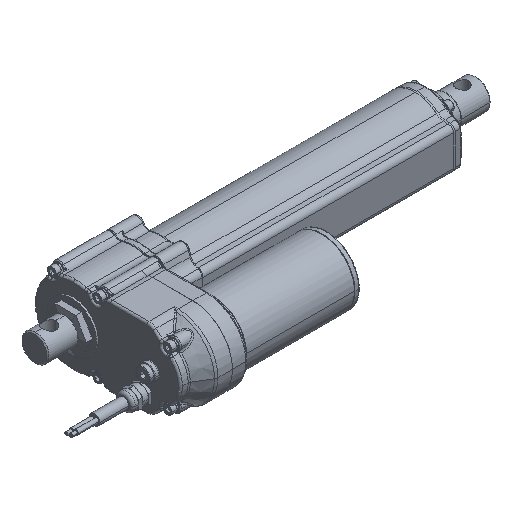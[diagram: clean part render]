
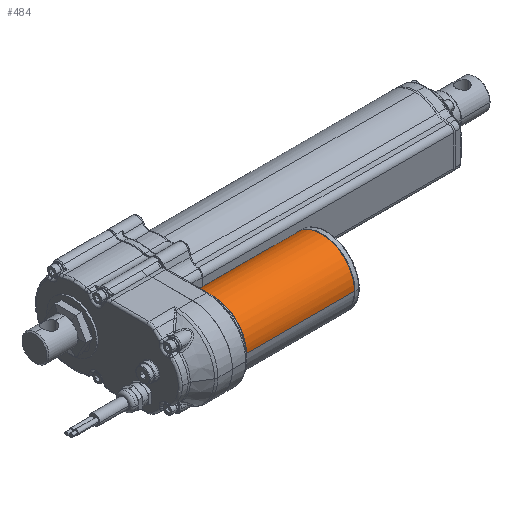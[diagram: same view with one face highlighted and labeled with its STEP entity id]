
A CAD part, isometric view. The second image highlights one B-rep face of the part: STEP entity #484.
In plain terms, the highlighted cylindrical face has radius 32 mm (diameter 64 mm), a partial arc.
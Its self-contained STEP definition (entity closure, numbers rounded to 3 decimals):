
#484=ADVANCED_FACE('',(#1852),#1853,.T.);
#1852=FACE_OUTER_BOUND('',#5107,.T.);
#1853=CYLINDRICAL_SURFACE('',#5108,32.0);
#5107=EDGE_LOOP('',(#11071,#11072,#11073,#11074));
#5108=AXIS2_PLACEMENT_3D('',#11075,#11076,#11077);
#11071=ORIENTED_EDGE('',*,*,#16465,.T.);
#11072=ORIENTED_EDGE('',*,*,#16466,.T.);
#11073=ORIENTED_EDGE('',*,*,#16467,.T.);
#11074=ORIENTED_EDGE('',*,*,#16468,.F.);
#11075=CARTESIAN_POINT('',(56.001,-74.999,0.004));
#11076=DIRECTION('',(-1.0,0.,0.));
#11077=DIRECTION('',(0.0,1.0,0.));
#16465=EDGE_CURVE('',#19683,#19684,#19685,.T.);
#16466=EDGE_CURVE('',#19684,#19686,#19687,.T.);
#16467=EDGE_CURVE('',#19686,#19688,#19689,.T.);
#16468=EDGE_CURVE('',#19683,#19688,#19690,.T.);
#19683=VERTEX_POINT('',#28436);
#19684=VERTEX_POINT('',#28437);
#19685=B_SPLINE_CURVE_WITH_KNOTS('',3,(#28438,#28439,#28440,#28441,#28442,#28443,#28444,#28445,#28446,#28447,#28448,#28449,#28450,#28451,#28452,#28453,#28454,#28455,#28456,#28457,#28458,#28459,#28460,#28461,#28462,#28463,#28464,#28465,#28466,#28467,#28468,#28469,#28470,#28471),.UNSPECIFIED.,.F.,.F.,(4,2,2,2,2,2,2,2,2,2,2,2,2,2,2,2,4),(0.0,0.063,0.125,0.188,0.25,0.313,0.375,0.438,0.5,0.563,0.625,0.688,0.75,0.813,0.875,0.938,1.0),.UNSPECIFIED.);
#19686=VERTEX_POINT('',#28472);
#19687=LINE('',#28473,#28474);
#19688=VERTEX_POINT('',#28475);
#19689=B_SPLINE_CURVE_WITH_KNOTS('',3,(#28476,#28477,#28478,#28479,#28480,#28481,#28482,#28483,#28484,#28485,#28486,#28487,#28488,#28489,#28490,#28491,#28492,#28493,#28494,#28495,#28496,#28497,#28498,#28499,#28500,#28501,#28502,#28503,#28504,#28505,#28506,#28507,#28508,#28509),.UNSPECIFIED.,.F.,.F.,(4,2,2,2,2,2,2,2,2,2,2,2,2,2,2,2,4),(0.0,0.063,0.125,0.188,0.25,0.313,0.375,0.438,0.5,0.563,0.625,0.688,0.75,0.813,0.875,0.938,1.0),.UNSPECIFIED.);
#19690=LINE('',#28510,#28511);
#28436=CARTESIAN_POINT('',(69.301,-42.999,0.004));
#28437=CARTESIAN_POINT('',(69.301,-106.999,0.004));
#28438=CARTESIAN_POINT('',(69.301,-42.999,0.004));
#28439=CARTESIAN_POINT('',(69.301,-42.999,2.098));
#28440=CARTESIAN_POINT('',(69.301,-43.206,4.193));
#28441=CARTESIAN_POINT('',(69.301,-44.023,8.301));
#28442=CARTESIAN_POINT('',(69.301,-44.634,10.315));
#28443=CARTESIAN_POINT('',(69.301,-46.237,14.185));
#28444=CARTESIAN_POINT('',(69.301,-47.229,16.041));
#28445=CARTESIAN_POINT('',(69.301,-49.556,19.524));
#28446=CARTESIAN_POINT('',(69.301,-50.891,21.15));
#28447=CARTESIAN_POINT('',(69.301,-53.853,24.112));
#28448=CARTESIAN_POINT('',(69.301,-55.48,25.447));
#28449=CARTESIAN_POINT('',(69.301,-58.963,27.775));
#28450=CARTESIAN_POINT('',(69.301,-60.819,28.767));
#28451=CARTESIAN_POINT('',(69.301,-64.689,30.37));
#28452=CARTESIAN_POINT('',(69.301,-66.702,30.981));
#28453=CARTESIAN_POINT('',(69.301,-70.811,31.798));
#28454=CARTESIAN_POINT('',(69.301,-72.905,32.004));
#28455=CARTESIAN_POINT('',(69.301,-77.094,32.004));
#28456=CARTESIAN_POINT('',(69.301,-79.188,31.798));
#28457=CARTESIAN_POINT('',(69.301,-83.297,30.981));
#28458=CARTESIAN_POINT('',(69.301,-85.31,30.37));
#28459=CARTESIAN_POINT('',(69.301,-89.18,28.767));
#28460=CARTESIAN_POINT('',(69.301,-91.036,27.775));
#28461=CARTESIAN_POINT('',(69.301,-94.519,25.447));
#28462=CARTESIAN_POINT('',(69.301,-96.146,24.112));
#28463=CARTESIAN_POINT('',(69.301,-99.108,21.15));
#28464=CARTESIAN_POINT('',(69.301,-100.443,19.524));
#28465=CARTESIAN_POINT('',(69.301,-102.77,16.041));
#28466=CARTESIAN_POINT('',(69.301,-103.762,14.185));
#28467=CARTESIAN_POINT('',(69.301,-105.365,10.315));
#28468=CARTESIAN_POINT('',(69.301,-105.976,8.301));
#28469=CARTESIAN_POINT('',(69.301,-106.793,4.193));
#28470=CARTESIAN_POINT('',(69.301,-106.999,2.098));
#28471=CARTESIAN_POINT('',(69.301,-106.999,0.004));
#28472=CARTESIAN_POINT('',(174.001,-106.999,0.004));
#28473=CARTESIAN_POINT('',(56.001,-106.999,0.004));
#28474=VECTOR('',#40539,1000.0);
#28475=CARTESIAN_POINT('',(174.001,-42.999,0.004));
#28476=CARTESIAN_POINT('',(174.001,-106.999,0.004));
#28477=CARTESIAN_POINT('',(174.001,-106.999,2.098));
#28478=CARTESIAN_POINT('',(174.001,-106.793,4.193));
#28479=CARTESIAN_POINT('',(174.001,-105.976,8.301));
#28480=CARTESIAN_POINT('',(174.001,-105.365,10.315));
#28481=CARTESIAN_POINT('',(174.001,-103.762,14.185));
#28482=CARTESIAN_POINT('',(174.001,-102.77,16.041));
#28483=CARTESIAN_POINT('',(174.001,-100.443,19.524));
#28484=CARTESIAN_POINT('',(174.001,-99.108,21.15));
#28485=CARTESIAN_POINT('',(174.001,-96.146,24.112));
#28486=CARTESIAN_POINT('',(174.001,-94.519,25.447));
#28487=CARTESIAN_POINT('',(174.001,-91.036,27.775));
#28488=CARTESIAN_POINT('',(174.001,-89.18,28.767));
#28489=CARTESIAN_POINT('',(174.001,-85.31,30.37));
#28490=CARTESIAN_POINT('',(174.001,-83.297,30.981));
#28491=CARTESIAN_POINT('',(174.001,-79.188,31.798));
#28492=CARTESIAN_POINT('',(174.001,-77.094,32.004));
#28493=CARTESIAN_POINT('',(174.001,-72.905,32.004));
#28494=CARTESIAN_POINT('',(174.001,-70.811,31.798));
#28495=CARTESIAN_POINT('',(174.001,-66.702,30.981));
#28496=CARTESIAN_POINT('',(174.001,-64.689,30.37));
#28497=CARTESIAN_POINT('',(174.001,-60.819,28.767));
#28498=CARTESIAN_POINT('',(174.001,-58.963,27.775));
#28499=CARTESIAN_POINT('',(174.001,-55.48,25.447));
#28500=CARTESIAN_POINT('',(174.001,-53.853,24.112));
#28501=CARTESIAN_POINT('',(174.001,-50.891,21.15));
#28502=CARTESIAN_POINT('',(174.001,-49.556,19.524));
#28503=CARTESIAN_POINT('',(174.001,-47.229,16.041));
#28504=CARTESIAN_POINT('',(174.001,-46.237,14.185));
#28505=CARTESIAN_POINT('',(174.001,-44.634,10.315));
#28506=CARTESIAN_POINT('',(174.001,-44.023,8.301));
#28507=CARTESIAN_POINT('',(174.001,-43.206,4.193));
#28508=CARTESIAN_POINT('',(174.001,-42.999,2.098));
#28509=CARTESIAN_POINT('',(174.001,-42.999,0.004));
#28510=CARTESIAN_POINT('',(56.001,-42.999,0.004));
#28511=VECTOR('',#40540,1000.0);
#40539=DIRECTION('',(1.0,0.,0.));
#40540=DIRECTION('',(1.0,0.,0.));
